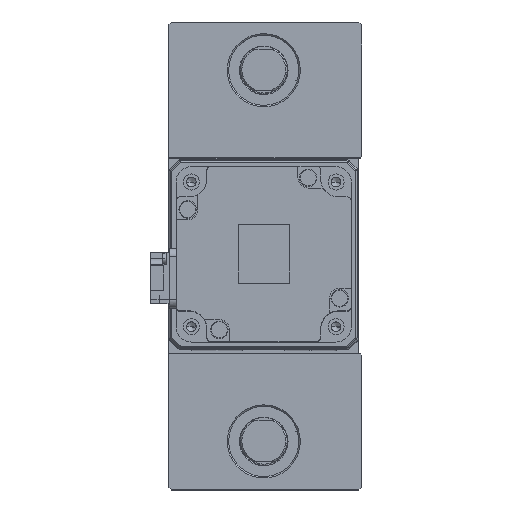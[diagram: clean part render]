
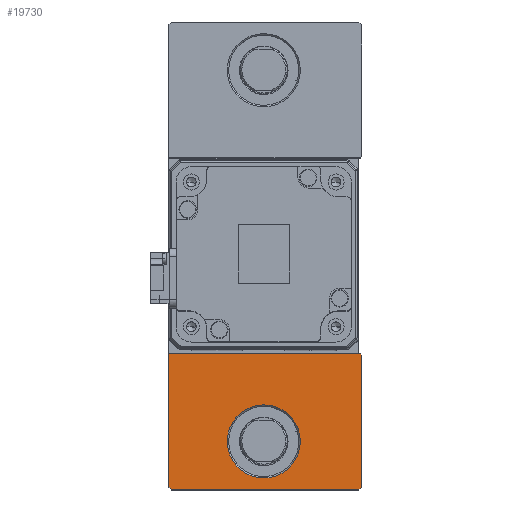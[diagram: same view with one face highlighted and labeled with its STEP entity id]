
A CAD part, top view. The second image highlights one B-rep face of the part: STEP entity #19730.
In plain terms, the highlighted planar face has unit normal (0, 0, 1).
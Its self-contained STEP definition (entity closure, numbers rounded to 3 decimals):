
#1699 = DIRECTION ( 'NONE',  ( 0., 0., 1. ) ) ;
#1805 = CARTESIAN_POINT ( 'NONE',  ( 0., 0., 25. ) ) ;
#2226 = DIRECTION ( 'NONE',  ( -0.707, 0.707, 0. ) ) ;
#2248 = EDGE_CURVE ( 'NONE', #32581, #13618, #29401, .T. ) ;
#3130 = DIRECTION ( 'NONE',  ( 0.707, 0.707, 0. ) ) ;
#4087 = EDGE_CURVE ( 'NONE', #36117, #32611, #27067, .T. ) ;
#4393 = AXIS2_PLACEMENT_3D ( 'NONE', #31838, #14183, #34801 ) ;
#4485 = ORIENTED_EDGE ( 'NONE', *, *, #32047, .T. ) ;
#4814 = PLANE ( 'NONE',  #21118 ) ;
#5560 = DIRECTION ( 'NONE',  ( 0., 0., -1. ) ) ;
#6161 = FACE_OUTER_BOUND ( 'NONE', #27821, .T. ) ;
#7929 = CARTESIAN_POINT ( 'NONE',  ( 32.5, -80., 25. ) ) ;
#8328 = ORIENTED_EDGE ( 'NONE', *, *, #21163, .T. ) ;
#8630 = LINE ( 'NONE', #20984, #31209 ) ;
#8857 = VECTOR ( 'NONE', #32889, 1000. ) ;
#8965 = VERTEX_POINT ( 'NONE', #22734 ) ;
#9523 = ORIENTED_EDGE ( 'NONE', *, *, #35970, .T. ) ;
#10546 = CARTESIAN_POINT ( 'NONE',  ( -32.5, -79., 25. ) ) ;
#10812 = ORIENTED_EDGE ( 'NONE', *, *, #4087, .T. ) ;
#11095 = CARTESIAN_POINT ( 'NONE',  ( -0.25, -0.25, 25. ) ) ;
#11273 = VERTEX_POINT ( 'NONE', #24465 ) ;
#12200 = EDGE_CURVE ( 'NONE', #13618, #37092, #13123, .T. ) ;
#12280 = CARTESIAN_POINT ( 'NONE',  ( -32.5, -33.5, 25. ) ) ;
#12582 = CIRCLE ( 'NONE', #4393, 12.5 ) ;
#13123 = LINE ( 'NONE', #25871, #20072 ) ;
#13350 = EDGE_LOOP ( 'NONE', ( #9523, #10812 ) ) ;
#13533 = VERTEX_POINT ( 'NONE', #34208 ) ;
#13618 = VERTEX_POINT ( 'NONE', #37706 ) ;
#14183 = DIRECTION ( 'NONE',  ( 0., 0., -1. ) ) ;
#14258 = EDGE_CURVE ( 'NONE', #37092, #13533, #27272, .T. ) ;
#14808 = CARTESIAN_POINT ( 'NONE',  ( -12.5, -63.5, 25. ) ) ;
#14826 = CARTESIAN_POINT ( 'NONE',  ( 56.25, -56.25, 25. ) ) ;
#15247 = CARTESIAN_POINT ( 'NONE',  ( -55.75, -55.75, 25. ) ) ;
#15400 = LINE ( 'NONE', #11095, #23259 ) ;
#16292 = ORIENTED_EDGE ( 'NONE', *, *, #12200, .T. ) ;
#16698 = LINE ( 'NONE', #12280, #8857 ) ;
#17940 = CARTESIAN_POINT ( 'NONE',  ( 33.5, -33.5, 25. ) ) ;
#18210 = DIRECTION ( 'NONE',  ( 0.707, -0.707, 0. ) ) ;
#19438 = VECTOR ( 'NONE', #3130, 1000. ) ;
#19730 = ADVANCED_FACE ( 'NONE', ( #29654, #6161 ), #4814, .T. ) ;
#20072 = VECTOR ( 'NONE', #28856, 1000. ) ;
#20984 = CARTESIAN_POINT ( 'NONE',  ( -32.5, -33.5, 25. ) ) ;
#21118 = AXIS2_PLACEMENT_3D ( 'NONE', #1805, #1699, #25413 ) ;
#21163 = EDGE_CURVE ( 'NONE', #13533, #21309, #30904, .T. ) ;
#21309 = VERTEX_POINT ( 'NONE', #36475 ) ;
#22734 = CARTESIAN_POINT ( 'NONE',  ( 33., -33.5, 25. ) ) ;
#23076 = VECTOR ( 'NONE', #29825, 1000. ) ;
#23197 = CARTESIAN_POINT ( 'NONE',  ( 0., -63.5, 25. ) ) ;
#23259 = VECTOR ( 'NONE', #2226, 1000. ) ;
#24465 = CARTESIAN_POINT ( 'NONE',  ( -32.5, -33.5, 25. ) ) ;
#25413 = DIRECTION ( 'NONE',  ( 1., 0., 0. ) ) ;
#25508 = CARTESIAN_POINT ( 'NONE',  ( 12.5, -63.5, 25. ) ) ;
#25871 = CARTESIAN_POINT ( 'NONE',  ( -32.5, -80., 25. ) ) ;
#26187 = DIRECTION ( 'NONE',  ( 1., 0., 0. ) ) ;
#26342 = EDGE_CURVE ( 'NONE', #21309, #8965, #15400, .T. ) ;
#27067 = CIRCLE ( 'NONE', #30864, 12.5 ) ;
#27272 = LINE ( 'NONE', #14826, #19438 ) ;
#27821 = EDGE_LOOP ( 'NONE', ( #16292, #33855, #8328, #30715, #33525, #4485, #28881 ) ) ;
#28856 = DIRECTION ( 'NONE',  ( 1., 0., 0. ) ) ;
#28881 = ORIENTED_EDGE ( 'NONE', *, *, #2248, .T. ) ;
#29001 = EDGE_CURVE ( 'NONE', #8965, #11273, #16698, .T. ) ;
#29401 = LINE ( 'NONE', #15247, #38144 ) ;
#29654 = FACE_BOUND ( 'NONE', #13350, .T. ) ;
#29825 = DIRECTION ( 'NONE',  ( 0., 1., 0. ) ) ;
#30715 = ORIENTED_EDGE ( 'NONE', *, *, #26342, .T. ) ;
#30864 = AXIS2_PLACEMENT_3D ( 'NONE', #23197, #5560, #26187 ) ;
#30904 = LINE ( 'NONE', #17940, #23076 ) ;
#31209 = VECTOR ( 'NONE', #35645, 1000. ) ;
#31838 = CARTESIAN_POINT ( 'NONE',  ( 0., -63.5, 25. ) ) ;
#32047 = EDGE_CURVE ( 'NONE', #11273, #32581, #8630, .T. ) ;
#32581 = VERTEX_POINT ( 'NONE', #10546 ) ;
#32611 = VERTEX_POINT ( 'NONE', #25508 ) ;
#32889 = DIRECTION ( 'NONE',  ( -1., 0., 0. ) ) ;
#33525 = ORIENTED_EDGE ( 'NONE', *, *, #29001, .T. ) ;
#33855 = ORIENTED_EDGE ( 'NONE', *, *, #14258, .T. ) ;
#34208 = CARTESIAN_POINT ( 'NONE',  ( 33.5, -79., 25. ) ) ;
#34801 = DIRECTION ( 'NONE',  ( 1., 0., 0. ) ) ;
#35645 = DIRECTION ( 'NONE',  ( 0., -1., 0. ) ) ;
#35970 = EDGE_CURVE ( 'NONE', #32611, #36117, #12582, .T. ) ;
#36117 = VERTEX_POINT ( 'NONE', #14808 ) ;
#36475 = CARTESIAN_POINT ( 'NONE',  ( 33.5, -34., 25. ) ) ;
#37092 = VERTEX_POINT ( 'NONE', #7929 ) ;
#37706 = CARTESIAN_POINT ( 'NONE',  ( -31.5, -80., 25. ) ) ;
#38144 = VECTOR ( 'NONE', #18210, 1000. ) ;
